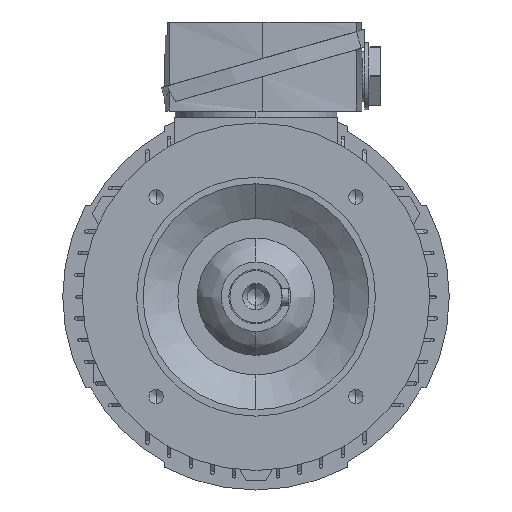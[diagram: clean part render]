
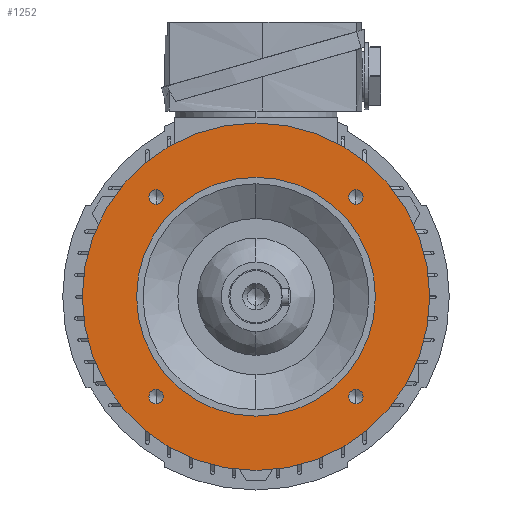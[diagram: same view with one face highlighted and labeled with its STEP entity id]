
A CAD part, left-side view. The second image highlights one B-rep face of the part: STEP entity #1252.
In plain terms, the highlighted planar face has unit normal (-1, 0, 0).
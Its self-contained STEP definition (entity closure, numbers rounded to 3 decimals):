
#10 = FACE_BOUND ( 'NONE', #3528, .T. ) ;
#624 = DIRECTION ( 'NONE',  ( 0., 0., 1. ) ) ;
#1074 = CARTESIAN_POINT ( 'NONE',  ( -34.5, 0., 0. ) ) ;
#1252 = ADVANCED_FACE ( 'NONE', ( #4401, #5457, #4937, #8841, #10, #17197 ), #19837, .T. ) ;
#1388 = EDGE_CURVE ( 'NONE', #18527, #1835, #2312, .T. ) ;
#1550 = CARTESIAN_POINT ( 'NONE',  ( -34.5, -45.962, 45.962 ) ) ;
#1560 = CARTESIAN_POINT ( 'NONE',  ( -34.5, 0., 67.5 ) ) ;
#1701 = DIRECTION ( 'NONE',  ( 1., 0., 0. ) ) ;
#1758 = AXIS2_PLACEMENT_3D ( 'NONE', #15002, #5019, #16681 ) ;
#1786 = AXIS2_PLACEMENT_3D ( 'NONE', #3293, #14970, #4980 ) ;
#1835 = VERTEX_POINT ( 'NONE', #9240 ) ;
#1990 = CIRCLE ( 'NONE', #16197, 80. ) ;
#2177 = AXIS2_PLACEMENT_3D ( 'NONE', #12247, #2273, #13932 ) ;
#2273 = DIRECTION ( 'NONE',  ( 1., 0., 0. ) ) ;
#2312 = CIRCLE ( 'NONE', #2375, 3.325 ) ;
#2375 = AXIS2_PLACEMENT_3D ( 'NONE', #18999, #8987, #20642 ) ;
#2529 = EDGE_LOOP ( 'NONE', ( #11749, #7886 ) ) ;
#2723 = DIRECTION ( 'NONE',  ( 0., 0., 1. ) ) ;
#3185 = CARTESIAN_POINT ( 'NONE',  ( -34.5, 0., 55. ) ) ;
#3187 = DIRECTION ( 'NONE',  ( 0., 0., -1. ) ) ;
#3198 = DIRECTION ( 'NONE',  ( 0., 0., 1. ) ) ;
#3236 = CARTESIAN_POINT ( 'NONE',  ( -34.5, 0., -80. ) ) ;
#3293 = CARTESIAN_POINT ( 'NONE',  ( -34.5, 0., 0. ) ) ;
#3322 = EDGE_CURVE ( 'NONE', #7064, #4568, #18964, .T. ) ;
#3528 = EDGE_LOOP ( 'NONE', ( #17292, #15120 ) ) ;
#3907 = VERTEX_POINT ( 'NONE', #6077 ) ;
#4401 = FACE_BOUND ( 'NONE', #20423, .T. ) ;
#4568 = VERTEX_POINT ( 'NONE', #5994 ) ;
#4937 = FACE_BOUND ( 'NONE', #18550, .T. ) ;
#4980 = DIRECTION ( 'NONE',  ( 0., 0., 1. ) ) ;
#4989 = DIRECTION ( 'NONE',  ( 1., 0., 0. ) ) ;
#5019 = DIRECTION ( 'NONE',  ( 1., 0., 0. ) ) ;
#5081 = VERTEX_POINT ( 'NONE', #9180 ) ;
#5409 = EDGE_CURVE ( 'NONE', #10876, #10422, #15088, .T. ) ;
#5457 = FACE_OUTER_BOUND ( 'NONE', #19641, .T. ) ;
#5609 = CARTESIAN_POINT ( 'NONE',  ( -34.5, 45.962, 49.287 ) ) ;
#5839 = DIRECTION ( 'NONE',  ( 1., 0., 0. ) ) ;
#5994 = CARTESIAN_POINT ( 'NONE',  ( -34.5, -45.962, 42.637 ) ) ;
#6077 = CARTESIAN_POINT ( 'NONE',  ( -34.5, 0., -55. ) ) ;
#6301 = DIRECTION ( 'NONE',  ( 1., 0., 0. ) ) ;
#6500 = CARTESIAN_POINT ( 'NONE',  ( -34.5, 0., 0. ) ) ;
#6769 = ORIENTED_EDGE ( 'NONE', *, *, #1388, .T. ) ;
#6907 = EDGE_CURVE ( 'NONE', #6942, #15293, #1990, .T. ) ;
#6942 = VERTEX_POINT ( 'NONE', #3236 ) ;
#7064 = VERTEX_POINT ( 'NONE', #18636 ) ;
#7389 = CIRCLE ( 'NONE', #12620, 3.325 ) ;
#7705 = CARTESIAN_POINT ( 'NONE',  ( -34.5, 0., 80. ) ) ;
#7886 = ORIENTED_EDGE ( 'NONE', *, *, #5409, .T. ) ;
#8194 = DIRECTION ( 'NONE',  ( 0., 0., 1. ) ) ;
#8367 = CARTESIAN_POINT ( 'NONE',  ( -34.5, 45.962, -49.287 ) ) ;
#8841 = FACE_BOUND ( 'NONE', #2529, .T. ) ;
#8943 = ORIENTED_EDGE ( 'NONE', *, *, #6907, .F. ) ;
#8987 = DIRECTION ( 'NONE',  ( 1., 0., 0. ) ) ;
#9073 = EDGE_LOOP ( 'NONE', ( #21117, #9109 ) ) ;
#9109 = ORIENTED_EDGE ( 'NONE', *, *, #3322, .T. ) ;
#9180 = CARTESIAN_POINT ( 'NONE',  ( -34.5, -45.962, -42.637 ) ) ;
#9240 = CARTESIAN_POINT ( 'NONE',  ( -34.5, 45.962, 42.637 ) ) ;
#10422 = VERTEX_POINT ( 'NONE', #8367 ) ;
#10568 = DIRECTION ( 'NONE',  ( 1., 0., 0. ) ) ;
#10876 = VERTEX_POINT ( 'NONE', #19417 ) ;
#11499 = CIRCLE ( 'NONE', #2177, 3.325 ) ;
#11515 = VERTEX_POINT ( 'NONE', #3185 ) ;
#11544 = CIRCLE ( 'NONE', #1758, 3.325 ) ;
#11573 = AXIS2_PLACEMENT_3D ( 'NONE', #11657, #1701, #13354 ) ;
#11589 = EDGE_CURVE ( 'NONE', #4568, #7064, #11544, .T. ) ;
#11657 = CARTESIAN_POINT ( 'NONE',  ( -34.5, 45.962, -45.962 ) ) ;
#11749 = ORIENTED_EDGE ( 'NONE', *, *, #19473, .T. ) ;
#12247 = CARTESIAN_POINT ( 'NONE',  ( -34.5, -45.962, -45.962 ) ) ;
#12620 = AXIS2_PLACEMENT_3D ( 'NONE', #14977, #4989, #16651 ) ;
#12727 = DIRECTION ( 'NONE',  ( 1., 0., 0. ) ) ;
#13128 = EDGE_CURVE ( 'NONE', #3907, #11515, #14146, .T. ) ;
#13198 = DIRECTION ( 'NONE',  ( 1., 0., 0. ) ) ;
#13208 = DIRECTION ( 'NONE',  ( -1., 0., 0. ) ) ;
#13285 = CIRCLE ( 'NONE', #19589, 3.325 ) ;
#13354 = DIRECTION ( 'NONE',  ( 0., 0., -1. ) ) ;
#13422 = VERTEX_POINT ( 'NONE', #19357 ) ;
#13760 = AXIS2_PLACEMENT_3D ( 'NONE', #1550, #13198, #3187 ) ;
#13899 = ORIENTED_EDGE ( 'NONE', *, *, #17231, .T. ) ;
#13932 = DIRECTION ( 'NONE',  ( 0., 0., -1. ) ) ;
#14146 = CIRCLE ( 'NONE', #15302, 55. ) ;
#14970 = DIRECTION ( 'NONE',  ( 1., 0., 0. ) ) ;
#14977 = CARTESIAN_POINT ( 'NONE',  ( -34.5, 45.962, 45.962 ) ) ;
#15002 = CARTESIAN_POINT ( 'NONE',  ( -34.5, -45.962, 45.962 ) ) ;
#15078 = ORIENTED_EDGE ( 'NONE', *, *, #13128, .T. ) ;
#15088 = CIRCLE ( 'NONE', #11573, 3.325 ) ;
#15120 = ORIENTED_EDGE ( 'NONE', *, *, #19958, .T. ) ;
#15293 = VERTEX_POINT ( 'NONE', #7705 ) ;
#15302 = AXIS2_PLACEMENT_3D ( 'NONE', #1074, #12727, #2723 ) ;
#15692 = EDGE_CURVE ( 'NONE', #13422, #5081, #13285, .T. ) ;
#15844 = CARTESIAN_POINT ( 'NONE',  ( -34.5, 45.962, -45.962 ) ) ;
#16197 = AXIS2_PLACEMENT_3D ( 'NONE', #6500, #18220, #8194 ) ;
#16311 = CARTESIAN_POINT ( 'NONE',  ( -34.5, -45.962, -45.962 ) ) ;
#16418 = AXIS2_PLACEMENT_3D ( 'NONE', #15844, #5839, #17532 ) ;
#16533 = EDGE_CURVE ( 'NONE', #11515, #3907, #17060, .T. ) ;
#16651 = DIRECTION ( 'NONE',  ( 0., 0., -1. ) ) ;
#16681 = DIRECTION ( 'NONE',  ( 0., 0., -1. ) ) ;
#17060 = CIRCLE ( 'NONE', #20551, 55. ) ;
#17197 = FACE_BOUND ( 'NONE', #9073, .T. ) ;
#17231 = EDGE_CURVE ( 'NONE', #1835, #18527, #7389, .T. ) ;
#17292 = ORIENTED_EDGE ( 'NONE', *, *, #15692, .T. ) ;
#17323 = AXIS2_PLACEMENT_3D ( 'NONE', #1560, #13208, #3198 ) ;
#17419 = ORIENTED_EDGE ( 'NONE', *, *, #16533, .T. ) ;
#17532 = DIRECTION ( 'NONE',  ( 0., 0., -1. ) ) ;
#18005 = DIRECTION ( 'NONE',  ( 0., 0., -1. ) ) ;
#18220 = DIRECTION ( 'NONE',  ( 1., 0., 0. ) ) ;
#18527 = VERTEX_POINT ( 'NONE', #5609 ) ;
#18550 = EDGE_LOOP ( 'NONE', ( #13899, #6769 ) ) ;
#18636 = CARTESIAN_POINT ( 'NONE',  ( -34.5, -45.962, 49.287 ) ) ;
#18836 = CIRCLE ( 'NONE', #16418, 3.325 ) ;
#18964 = CIRCLE ( 'NONE', #13760, 3.325 ) ;
#18999 = CARTESIAN_POINT ( 'NONE',  ( -34.5, 45.962, 45.962 ) ) ;
#19357 = CARTESIAN_POINT ( 'NONE',  ( -34.5, -45.962, -49.287 ) ) ;
#19417 = CARTESIAN_POINT ( 'NONE',  ( -34.5, 45.962, -42.637 ) ) ;
#19473 = EDGE_CURVE ( 'NONE', #10422, #10876, #18836, .T. ) ;
#19589 = AXIS2_PLACEMENT_3D ( 'NONE', #16311, #6301, #18005 ) ;
#19598 = CIRCLE ( 'NONE', #1786, 80. ) ;
#19641 = EDGE_LOOP ( 'NONE', ( #20023, #8943 ) ) ;
#19837 = PLANE ( 'NONE',  #17323 ) ;
#19958 = EDGE_CURVE ( 'NONE', #5081, #13422, #11499, .T. ) ;
#20023 = ORIENTED_EDGE ( 'NONE', *, *, #21613, .F. ) ;
#20423 = EDGE_LOOP ( 'NONE', ( #17419, #15078 ) ) ;
#20550 = CARTESIAN_POINT ( 'NONE',  ( -34.5, 0., 0. ) ) ;
#20551 = AXIS2_PLACEMENT_3D ( 'NONE', #20550, #10568, #624 ) ;
#20642 = DIRECTION ( 'NONE',  ( 0., 0., -1. ) ) ;
#21117 = ORIENTED_EDGE ( 'NONE', *, *, #11589, .T. ) ;
#21613 = EDGE_CURVE ( 'NONE', #15293, #6942, #19598, .T. ) ;
